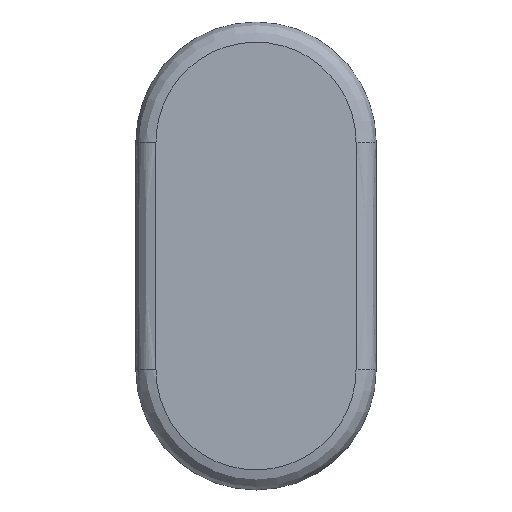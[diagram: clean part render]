
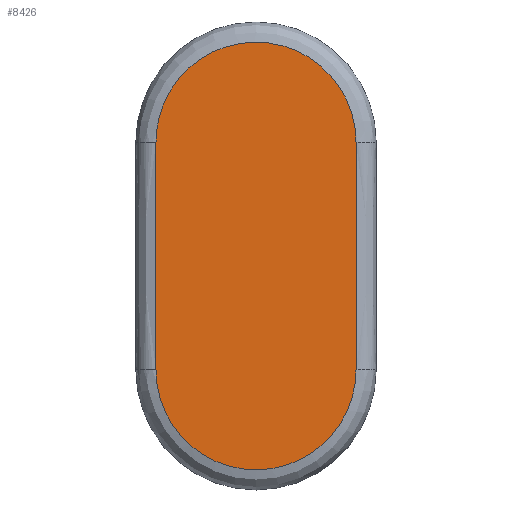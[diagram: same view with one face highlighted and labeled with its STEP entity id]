
A CAD part, front view. The second image highlights one B-rep face of the part: STEP entity #8426.
In plain terms, the highlighted planar face has unit normal (0, -1, 0).
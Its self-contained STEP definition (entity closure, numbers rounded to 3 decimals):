
#7895=CARTESIAN_POINT('',(-25.8,-10.7,
-73.1));
#7896=CARTESIAN_POINT('',(-25.8,-10.7,
-73.98));
#7897=CARTESIAN_POINT('',(-25.713,-10.7,
-75.674));
#7898=CARTESIAN_POINT('',(-25.203,-10.7,
-79.067));
#7899=CARTESIAN_POINT('',(-23.946,-10.7,
-83.141));
#7900=CARTESIAN_POINT('',(-21.533,-10.7,
-87.608));
#7901=CARTESIAN_POINT('',(-18.3,-10.7,
-91.52));
#7902=CARTESIAN_POINT('',(-14.371,-10.7,
-94.725));
#7903=CARTESIAN_POINT('',(-9.895,-10.7,
-97.104));
#7904=CARTESIAN_POINT('',(-5.045,-10.7,
-98.57));
#7905=CARTESIAN_POINT('',(-1.667,-10.7,
-98.901));
#7906=CARTESIAN_POINT('',(1.713,-10.7,
-98.899));
#7907=CARTESIAN_POINT('',(5.098,-10.7,
-98.56));
#7908=CARTESIAN_POINT('',(9.957,-10.7,
-97.08));
#7909=CARTESIAN_POINT('',(14.436,-10.7,
-94.683));
#7910=CARTESIAN_POINT('',(18.361,-10.7,
-91.46));
#7911=CARTESIAN_POINT('',(21.583,-10.7,
-87.533));
#7912=CARTESIAN_POINT('',(23.981,-10.7,
-83.056));
#7913=CARTESIAN_POINT('',(25.215,-10.7,
-79.005));
#7914=CARTESIAN_POINT('',(25.714,-10.7,
-75.653));
#7915=CARTESIAN_POINT('',(25.8,-10.7,
-73.978));
#7916=CARTESIAN_POINT('',(25.8,-10.7,
-73.1));
#7918=DIRECTION('',(0.,0.,-1.));
#7919=VECTOR('',#7918,58.7);
#7920=CARTESIAN_POINT('',(-25.8,-10.7,
-14.4));
#7921=LINE('',#7920,#7919);
#7922=CARTESIAN_POINT('',(25.8,-10.7,
-14.4));
#7923=CARTESIAN_POINT('',(25.8,-10.7,
-13.522));
#7924=CARTESIAN_POINT('',(25.714,-10.7,
-11.846));
#7925=CARTESIAN_POINT('',(25.215,-10.7,
-8.494));
#7926=CARTESIAN_POINT('',(23.981,-10.7,
-4.444));
#7927=CARTESIAN_POINT('',(21.584,-10.7,
0.034));
#7928=CARTESIAN_POINT('',(18.361,-10.7,3.96));
#7929=CARTESIAN_POINT('',(14.436,-10.7,7.183));
#7930=CARTESIAN_POINT('',(9.957,-10.7,9.58));
#7931=CARTESIAN_POINT('',(5.098,-10.7,11.061));
#7932=CARTESIAN_POINT('',(1.713,-10.7,11.399));
#7933=CARTESIAN_POINT('',(-1.667,-10.7,
11.402));
#7934=CARTESIAN_POINT('',(-5.044,-10.7,
11.071));
#7935=CARTESIAN_POINT('',(-9.896,-10.7,
9.605));
#7936=CARTESIAN_POINT('',(-14.37,-10.7,
7.226));
#7937=CARTESIAN_POINT('',(-18.3,-10.7,
4.021));
#7938=CARTESIAN_POINT('',(-21.533,-10.7,
0.108));
#7939=CARTESIAN_POINT('',(-23.946,-10.7,
-4.358));
#7940=CARTESIAN_POINT('',(-25.203,-10.7,
-8.433));
#7941=CARTESIAN_POINT('',(-25.713,-10.7,
-11.825));
#7942=CARTESIAN_POINT('',(-25.8,-10.7,
-13.519));
#7943=CARTESIAN_POINT('',(-25.8,-10.7,
-14.4));
#7945=DIRECTION('',(0.,0.,1.));
#7946=VECTOR('',#7945,58.7);
#7947=CARTESIAN_POINT('',(25.8,-10.7,
-73.1));
#7948=LINE('',#7947,#7946);
#7974=VERTEX_POINT('',#7895);
#7975=VERTEX_POINT('',#7916);
#7976=CARTESIAN_POINT('',(25.8,-10.7,
-14.4));
#7977=VERTEX_POINT('',#7976);
#7978=VERTEX_POINT('',#7943);
#8413=CARTESIAN_POINT('',(-2.149,-10.7,
-43.75));
#8414=DIRECTION('',(0.,1.,0.));
#8415=DIRECTION('',(1.,0.,0.));
#8416=AXIS2_PLACEMENT_3D('',#8413,#8414,#8415);
#8417=PLANE('',#8416);
#8419=ORIENTED_EDGE('',*,*,#8418,.F.);
#8420=ORIENTED_EDGE('',*,*,#8405,.F.);
#8421=ORIENTED_EDGE('',*,*,#8391,.F.);
#8423=ORIENTED_EDGE('',*,*,#8422,.F.);
#8424=EDGE_LOOP('',(#8419,#8420,#8421,#8423));
#8425=FACE_OUTER_BOUND('',#8424,.F.);
#8426=ADVANCED_FACE('',(#8425),#8417,.F.);
#7917=B_SPLINE_CURVE_WITH_KNOTS('',3,(#7895,#7896,#7897,#7898,#7899,#7900,#7901,
#7902,#7903,#7904,#7905,#7906,#7907,#7908,#7909,#7910,#7911,#7912,#7913,#7914,
#7915,#7916),.UNSPECIFIED.,.F.,.F.,(4,1,1,1,1,1,1,1,1,1,1,1,1,1,1,1,1,1,1,4),(
0.,0.031,0.063,0.125,0.188,0.25,0.313,0.375,
0.437,0.5,0.5,0.563,0.625,0.688,0.75,
0.813,0.875,0.938,0.969,1.),.UNSPECIFIED.);
#7944=B_SPLINE_CURVE_WITH_KNOTS('',3,(#7922,#7923,#7924,#7925,#7926,#7927,#7928,
#7929,#7930,#7931,#7932,#7933,#7934,#7935,#7936,#7937,#7938,#7939,#7940,#7941,
#7942,#7943),.UNSPECIFIED.,.F.,.F.,(4,1,1,1,1,1,1,1,1,1,1,1,1,1,1,1,1,1,1,4),(
0.,0.031,0.062,0.125,0.187,0.25,0.312,0.375,
0.437,0.5,0.5,0.563,0.625,0.687,0.75,
0.812,0.875,0.937,0.969,1.),.UNSPECIFIED.);
#8391=EDGE_CURVE('',#7977,#7978,#7944,.T.);
#8405=EDGE_CURVE('',#7978,#7974,#7921,.T.);
#8418=EDGE_CURVE('',#7974,#7975,#7917,.T.);
#8422=EDGE_CURVE('',#7975,#7977,#7948,.T.);
